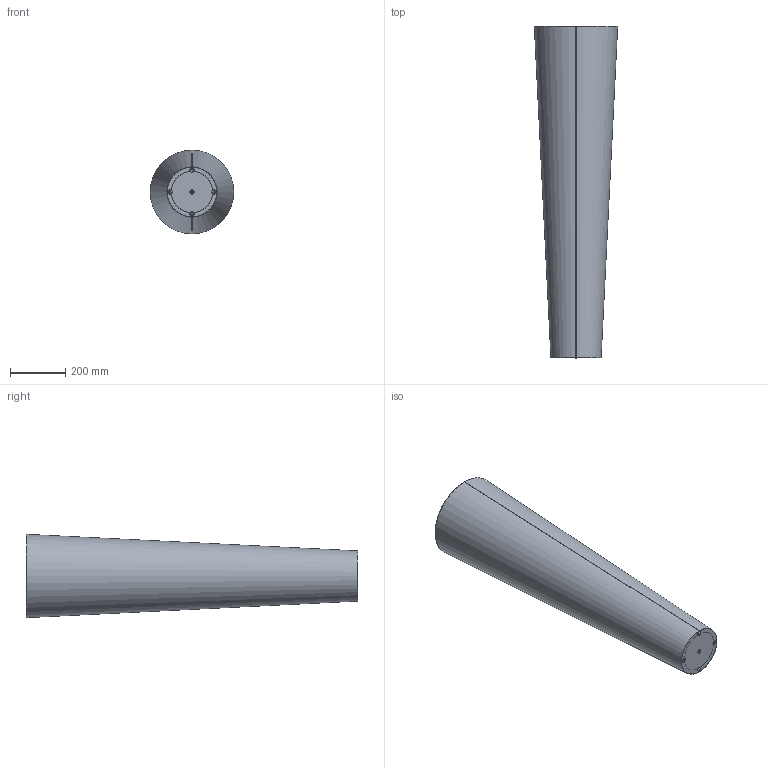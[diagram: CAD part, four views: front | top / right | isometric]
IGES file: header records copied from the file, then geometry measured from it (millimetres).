
Start section: SolidWorks IGES file using analytic representation for surfaces
Global section: file name: \\utenti\Dati Utenti\Tecnico\DC\2D - 3D per sito\3D\DeCastelli-3D-Narnya 120.igs; native system: SolidWorks 2022; preprocessor: SolidWorks 2022; author: Simonep; date: 240807.172456; units: millimetre
Bounding box: 301.86 x 1201.25 x 301.86 mm (x, y, z)
Surface area: 2044935.3 mm2 (no closed solid volume)
Topology: 0 solids, 0 shells, 50 faces, 1175 edges, 1175 vertices
Faces by surface type: bspline 30, revolution 20
